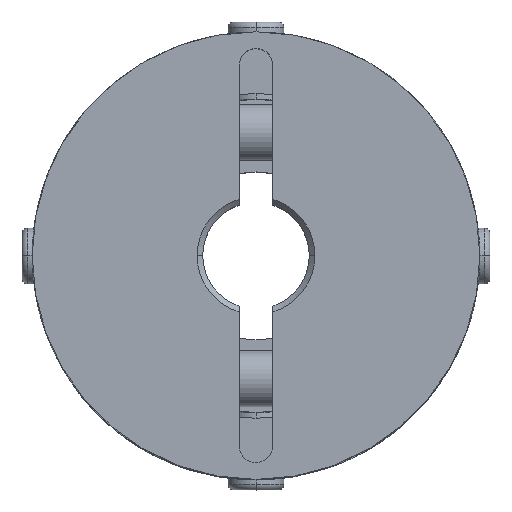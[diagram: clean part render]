
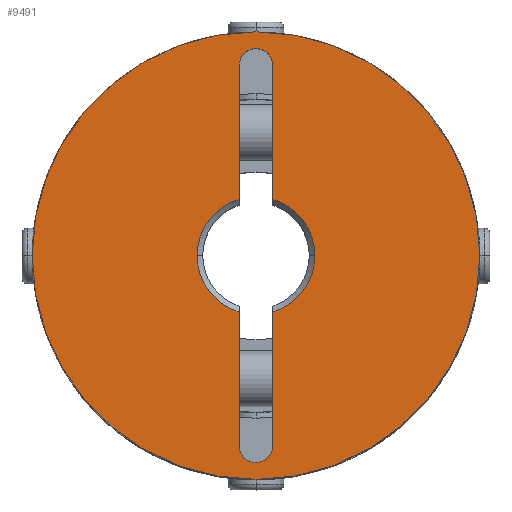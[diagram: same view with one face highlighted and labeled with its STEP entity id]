
A CAD part, top view. The second image highlights one B-rep face of the part: STEP entity #9491.
In plain terms, the highlighted planar face has unit normal (0, 0, 1).
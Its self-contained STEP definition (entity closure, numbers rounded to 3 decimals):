
#829=CARTESIAN_POINT('',(-20.0,0.,20.0));
#830=VERTEX_POINT('',#829);
#837=CARTESIAN_POINT('',(20.0,0.0,20.0));
#838=VERTEX_POINT('',#837);
#839=CARTESIAN_POINT('',(0.0,0.0,20.0));
#840=DIRECTION('',(0.0,0.0,-1.0));
#841=DIRECTION('',(1.0,0.0,0.0));
#842=AXIS2_PLACEMENT_3D('',#839,#840,#841);
#843=CIRCLE('',#842,20.0);
#844=EDGE_CURVE('',#830,#838,#843,.T.);
#1155=CARTESIAN_POINT('',(-1.061,18.061,20.0));
#1156=VERTEX_POINT('',#1155);
#1172=CARTESIAN_POINT('',(1.5,17.,20.0));
#1173=VERTEX_POINT('',#1172);
#1180=CARTESIAN_POINT('',(0.,17.,20.0));
#1181=DIRECTION('',(0.0,0.0,1.));
#1182=DIRECTION('',(0.707,0.707,0.0));
#1183=AXIS2_PLACEMENT_3D('',#1180,#1181,#1182);
#1184=CIRCLE('',#1183,1.5);
#1185=EDGE_CURVE('',#1173,#1156,#1184,.T.);
#1197=CARTESIAN_POINT('',(1.061,-18.061,20.0));
#1198=VERTEX_POINT('',#1197);
#1214=CARTESIAN_POINT('',(-1.5,-17.,20.0));
#1215=VERTEX_POINT('',#1214);
#1222=CARTESIAN_POINT('',(0.0,-17.,20.0));
#1223=DIRECTION('',(0.0,0.0,1.0));
#1224=DIRECTION('',(-0.707,-0.707,0.0));
#1225=AXIS2_PLACEMENT_3D('',#1222,#1223,#1224);
#1226=CIRCLE('',#1225,1.5);
#1227=EDGE_CURVE('',#1215,#1198,#1226,.T.);
#1237=CARTESIAN_POINT('',(-5.263,0.,20.0));
#1238=VERTEX_POINT('',#1237);
#1245=CARTESIAN_POINT('',(-1.5,-5.044,20.0));
#1246=VERTEX_POINT('',#1245);
#1247=CARTESIAN_POINT('',(0.0,0.0,20.0));
#1248=DIRECTION('',(0.0,0.0,1.0));
#1249=DIRECTION('',(-1.0,0.0,0.0));
#1250=AXIS2_PLACEMENT_3D('',#1247,#1248,#1249);
#1251=CIRCLE('',#1250,5.263);
#1252=EDGE_CURVE('',#1238,#1246,#1251,.T.);
#1276=CARTESIAN_POINT('',(5.263,0.,20.0));
#1277=VERTEX_POINT('',#1276);
#1284=CARTESIAN_POINT('',(1.5,5.044,20.0));
#1285=VERTEX_POINT('',#1284);
#1286=CARTESIAN_POINT('',(0.0,0.0,20.0));
#1287=DIRECTION('',(0.0,0.0,1.0));
#1288=DIRECTION('',(1.0,0.0,0.0));
#1289=AXIS2_PLACEMENT_3D('',#1286,#1287,#1288);
#1290=CIRCLE('',#1289,5.263);
#1291=EDGE_CURVE('',#1277,#1285,#1290,.T.);
#9296=CARTESIAN_POINT('',(-1.5,17.,20.0));
#9297=VERTEX_POINT('',#9296);
#9304=CARTESIAN_POINT('',(-1.5,5.044,20.0));
#9305=VERTEX_POINT('',#9304);
#9306=CARTESIAN_POINT('',(-1.5,5.044,20.0));
#9307=DIRECTION('',(0.0,1.0,0.0));
#9308=VECTOR('',#9307,11.956);
#9309=LINE('',#9306,#9308);
#9310=EDGE_CURVE('',#9305,#9297,#9309,.T.);
#9385=CARTESIAN_POINT('',(1.5,17.,20.0));
#9386=DIRECTION('',(0.0,-1.0,0.0));
#9387=VECTOR('',#9386,11.956);
#9388=LINE('',#9385,#9387);
#9389=EDGE_CURVE('',#1173,#1285,#9388,.T.);
#9407=CARTESIAN_POINT('',(1.5,-5.044,20.0));
#9408=VERTEX_POINT('',#9407);
#9422=CARTESIAN_POINT('',(0.0,0.0,20.0));
#9423=DIRECTION('',(0.0,0.0,1.0));
#9424=DIRECTION('',(1.0,0.0,0.0));
#9425=AXIS2_PLACEMENT_3D('',#9422,#9423,#9424);
#9426=CIRCLE('',#9425,5.263);
#9427=EDGE_CURVE('',#9408,#1277,#9426,.T.);
#9432=CARTESIAN_POINT('',(1.818,0.,20.0));
#9433=DIRECTION('',(0.0,0.0,1.0));
#9434=DIRECTION('',(1.0,0.0,0.0));
#9435=AXIS2_PLACEMENT_3D('',#9432,#9433,#9434);
#9436=PLANE('',#9435);
#9437=CARTESIAN_POINT('',(0.0,0.0,20.0));
#9438=DIRECTION('',(0.0,0.0,-1.0));
#9439=DIRECTION('',(1.0,0.0,0.0));
#9440=AXIS2_PLACEMENT_3D('',#9437,#9438,#9439);
#9441=CIRCLE('',#9440,20.0);
#9442=EDGE_CURVE('',#838,#830,#9441,.T.);
#9443=ORIENTED_EDGE('',*,*,#9442,.F.);
#9444=ORIENTED_EDGE('',*,*,#844,.F.);
#9445=EDGE_LOOP('',(#9443,#9444));
#9446=FACE_OUTER_BOUND('',#9445,.T.);
#9447=ORIENTED_EDGE('',*,*,#9427,.F.);
#9448=CARTESIAN_POINT('',(1.5,-17.,20.0));
#9449=VERTEX_POINT('',#9448);
#9450=CARTESIAN_POINT('',(1.5,-5.044,20.0));
#9451=DIRECTION('',(0.0,-1.0,0.0));
#9452=VECTOR('',#9451,11.956);
#9453=LINE('',#9450,#9452);
#9454=EDGE_CURVE('',#9408,#9449,#9453,.T.);
#9455=ORIENTED_EDGE('',*,*,#9454,.T.);
#9456=CARTESIAN_POINT('',(0.0,-17.,20.0));
#9457=DIRECTION('',(0.0,0.0,1.0));
#9458=DIRECTION('',(-0.707,-0.707,0.0));
#9459=AXIS2_PLACEMENT_3D('',#9456,#9457,#9458);
#9460=CIRCLE('',#9459,1.5);
#9461=EDGE_CURVE('',#1198,#9449,#9460,.T.);
#9462=ORIENTED_EDGE('',*,*,#9461,.F.);
#9463=ORIENTED_EDGE('',*,*,#1227,.F.);
#9464=CARTESIAN_POINT('',(-1.5,-17.,20.0));
#9465=DIRECTION('',(0.0,1.0,0.0));
#9466=VECTOR('',#9465,11.956);
#9467=LINE('',#9464,#9466);
#9468=EDGE_CURVE('',#1215,#1246,#9467,.T.);
#9469=ORIENTED_EDGE('',*,*,#9468,.T.);
#9470=ORIENTED_EDGE('',*,*,#1252,.F.);
#9471=CARTESIAN_POINT('',(0.0,0.0,20.0));
#9472=DIRECTION('',(0.0,0.0,1.0));
#9473=DIRECTION('',(-1.0,0.0,0.0));
#9474=AXIS2_PLACEMENT_3D('',#9471,#9472,#9473);
#9475=CIRCLE('',#9474,5.263);
#9476=EDGE_CURVE('',#9305,#1238,#9475,.T.);
#9477=ORIENTED_EDGE('',*,*,#9476,.F.);
#9478=ORIENTED_EDGE('',*,*,#9310,.T.);
#9479=CARTESIAN_POINT('',(0.,17.,20.0));
#9480=DIRECTION('',(0.0,0.0,1.));
#9481=DIRECTION('',(0.707,0.707,0.0));
#9482=AXIS2_PLACEMENT_3D('',#9479,#9480,#9481);
#9483=CIRCLE('',#9482,1.5);
#9484=EDGE_CURVE('',#1156,#9297,#9483,.T.);
#9485=ORIENTED_EDGE('',*,*,#9484,.F.);
#9486=ORIENTED_EDGE('',*,*,#1185,.F.);
#9487=ORIENTED_EDGE('',*,*,#9389,.T.);
#9488=ORIENTED_EDGE('',*,*,#1291,.F.);
#9489=EDGE_LOOP('',(#9447,#9455,#9462,#9463,#9469,#9470,#9477,#9478,#9485,#9486,#9487,#9488));
#9490=FACE_BOUND('',#9489,.T.);
#9491=ADVANCED_FACE('',(#9446,#9490),#9436,.T.);
